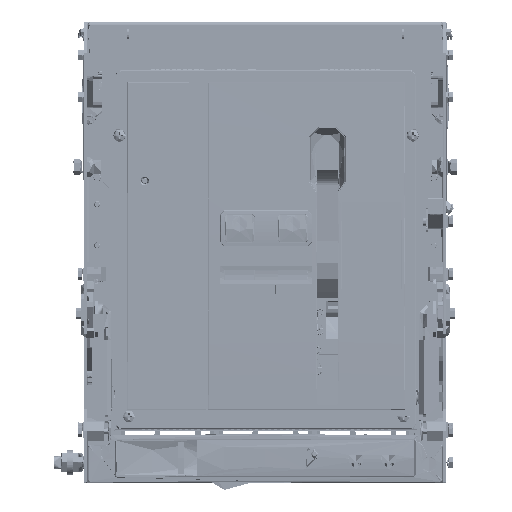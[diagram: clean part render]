
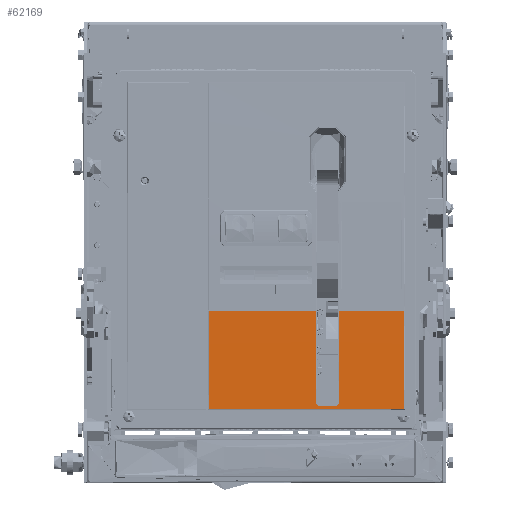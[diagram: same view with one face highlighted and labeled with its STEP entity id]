
A CAD part, top view. The second image highlights one B-rep face of the part: STEP entity #62169.
In plain terms, the highlighted cylindrical face has radius 8454.27 mm (diameter 16908.5 mm), a partial arc.
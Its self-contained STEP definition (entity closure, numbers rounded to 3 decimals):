
#5297 = CARTESIAN_POINT ( 'NONE',  ( 68.5, -40.069, 68.694 ) ) ;
#8869 = CARTESIAN_POINT ( 'NONE',  ( 48.325, -40.094, 70.088 ) ) ;
#9131 = VERTEX_POINT ( 'NONE', #1112158 ) ;
#27912 = CARTESIAN_POINT ( 'NONE',  ( 70.8, 8412.771, 224.25 ) ) ;
#53376 = CARTESIAN_POINT ( 'NONE',  ( 48.2, 8412.771, 224.25 ) ) ;
#58441 = VERTEX_POINT ( 'NONE', #1116523 ) ;
#62169 = ADVANCED_FACE ( 'NONE', ( #336084 ), #249002, .T. ) ;
#64987 = ORIENTED_EDGE ( 'NONE', *, *, #326025, .F. ) ;
#67572 = VERTEX_POINT ( 'NONE', #973868 ) ;
#73641 = DIRECTION ( 'NONE',  ( 1., 0., 0. ) ) ;
#78786 = CARTESIAN_POINT ( 'NONE',  ( 48.831, -40.08, 69.326 ) ) ;
#90240 = CARTESIAN_POINT ( 'NONE',  ( 48.2, -40.111, 70.995 ) ) ;
#95886 = VERTEX_POINT ( 'NONE', #425277 ) ;
#102381 = B_SPLINE_CURVE_WITH_KNOTS ( 'NONE', 3,
 ( #5297, #1082811, #560568, #794500, #914432, #1055651, #119517 ),
 .UNSPECIFIED., .F., .F.,
 ( 4, 1, 1, 1, 4 ),
 ( 0., 0.25, 0.5, 0.75, 1. ),
 .UNSPECIFIED. ) ;
#119517 = CARTESIAN_POINT ( 'NONE',  ( 70.8, -40.111, 70.995 ) ) ;
#122846 = DIRECTION ( 'NONE',  ( 0., -1., -0.019 ) ) ;
#123368 = ORIENTED_EDGE ( 'NONE', *, *, #328350, .F. ) ;
#128538 = CARTESIAN_POINT ( 'NONE',  ( 134., 8412.771, 224.25 ) ) ;
#141957 = CARTESIAN_POINT ( 'NONE',  ( 134., -40.019, 65.994 ) ) ;
#149764 = EDGE_CURVE ( 'NONE', #418052, #927507, #362834, .T. ) ;
#212508 = ORIENTED_EDGE ( 'NONE', *, *, #960136, .T. ) ;
#220719 = EDGE_CURVE ( 'NONE', #9131, #67572, #948638, .T. ) ;
#228395 = CARTESIAN_POINT ( 'NONE',  ( 50.5, -40.069, 68.694 ) ) ;
#239832 = LINE ( 'NONE', #228395, #1069358 ) ;
#249002 = CYLINDRICAL_SURFACE ( 'NONE', #1090785, 8454.271 ) ;
#257961 = EDGE_CURVE ( 'NONE', #9131, #95886, #1040074, .T. ) ;
#284488 = VERTEX_POINT ( 'NONE', #846291 ) ;
#285914 = EDGE_CURVE ( 'NONE', #67572, #839225, #239832, .T. ) ;
#315390 = ORIENTED_EDGE ( 'NONE', *, *, #285914, .F. ) ;
#320168 = CARTESIAN_POINT ( 'NONE',  ( -56., 8412.771, 224.25 ) ) ;
#326025 = EDGE_CURVE ( 'NONE', #839225, #58441, #102381, .T. ) ;
#328350 = EDGE_CURVE ( 'NONE', #284488, #888903, #942597, .T. ) ;
#331579 = DIRECTION ( 'NONE',  ( 0., -1., -0.008 ) ) ;
#336084 = FACE_OUTER_BOUND ( 'NONE', #434212, .T. ) ;
#344048 = EDGE_CURVE ( 'NONE', #284488, #418052, #974113, .T. ) ;
#362834 = LINE ( 'NONE', #803804, #648073 ) ;
#362859 = CARTESIAN_POINT ( 'NONE',  ( 50.18, -40.069, 68.694 ) ) ;
#364734 = DIRECTION ( 'NONE',  ( 1., 0., 0. ) ) ;
#392631 = AXIS2_PLACEMENT_3D ( 'NONE', #320168, #958056, #331579 ) ;
#418052 = VERTEX_POINT ( 'NONE', #859314 ) ;
#425277 = CARTESIAN_POINT ( 'NONE',  ( 48.2, -41.261, 160.698 ) ) ;
#427605 = LINE ( 'NONE', #711637, #981826 ) ;
#434212 = EDGE_LOOP ( 'NONE', ( #64987, #315390, #646024, #593459, #688222, #951844, #123368, #887375, #629296, #212508 ) ) ;
#476385 = CARTESIAN_POINT ( 'NONE',  ( 70.8, -41.261, 160.698 ) ) ;
#476830 = DIRECTION ( 'NONE',  ( -1., 0., 0. ) ) ;
#483282 = CIRCLE ( 'NONE', #705224, 8454.271 ) ;
#483908 = DIRECTION ( 'NONE',  ( 1., 0., 0. ) ) ;
#491788 = EDGE_CURVE ( 'NONE', #600976, #888903, #1077617, .T. ) ;
#501702 = DIRECTION ( 'NONE',  ( -1., 0., 0. ) ) ;
#530955 = CARTESIAN_POINT ( 'NONE',  ( -56., -40.019, 65.994 ) ) ;
#544080 = CARTESIAN_POINT ( 'NONE',  ( 68.5, -40.069, 68.694 ) ) ;
#560568 = CARTESIAN_POINT ( 'NONE',  ( 69.406, -40.071, 68.819 ) ) ;
#593459 = ORIENTED_EDGE ( 'NONE', *, *, #257961, .T. ) ;
#600976 = VERTEX_POINT ( 'NONE', #666126 ) ;
#613526 = AXIS2_PLACEMENT_3D ( 'NONE', #53376, #778444, #691413 ) ;
#629296 = ORIENTED_EDGE ( 'NONE', *, *, #149764, .T. ) ;
#646024 = ORIENTED_EDGE ( 'NONE', *, *, #220719, .F. ) ;
#648073 = VECTOR ( 'NONE', #1140472, 1000. ) ;
#666126 = CARTESIAN_POINT ( 'NONE',  ( -56., -41.261, 160.698 ) ) ;
#688222 = ORIENTED_EDGE ( 'NONE', *, *, #807025, .F. ) ;
#690057 = DIRECTION ( 'NONE',  ( -1., 0., 0. ) ) ;
#691413 = DIRECTION ( 'NONE',  ( 0., -1., -0.018 ) ) ;
#695904 = AXIS2_PLACEMENT_3D ( 'NONE', #128538, #476830, #122846 ) ;
#705224 = AXIS2_PLACEMENT_3D ( 'NONE', #27912, #364734, #730099 ) ;
#707161 = CARTESIAN_POINT ( 'NONE',  ( -69., 8412.771, 224.25 ) ) ;
#711637 = CARTESIAN_POINT ( 'NONE',  ( -56., -41.261, 160.698 ) ) ;
#730099 = DIRECTION ( 'NONE',  ( 0., -1., -0.008 ) ) ;
#778444 = DIRECTION ( 'NONE',  ( -1., 0., 0. ) ) ;
#794500 = CARTESIAN_POINT ( 'NONE',  ( 70.169, -40.08, 69.326 ) ) ;
#803804 = CARTESIAN_POINT ( 'NONE',  ( 134., -41.261, 160.698 ) ) ;
#807025 = EDGE_CURVE ( 'NONE', #600976, #95886, #427605, .T. ) ;
#839225 = VERTEX_POINT ( 'NONE', #544080 ) ;
#846291 = CARTESIAN_POINT ( 'NONE',  ( 134., -40.019, 65.994 ) ) ;
#859314 = CARTESIAN_POINT ( 'NONE',  ( 134., -41.261, 160.698 ) ) ;
#887375 = ORIENTED_EDGE ( 'NONE', *, *, #344048, .T. ) ;
#888903 = VERTEX_POINT ( 'NONE', #530955 ) ;
#914432 = CARTESIAN_POINT ( 'NONE',  ( 70.675, -40.094, 70.088 ) ) ;
#927507 = VERTEX_POINT ( 'NONE', #476385 ) ;
#942597 = LINE ( 'NONE', #141957, #1010596 ) ;
#948638 = B_SPLINE_CURVE_WITH_KNOTS ( 'NONE', 3,
 ( #90240, #1140497, #8869, #78786, #966468, #362859, #1053527 ),
 .UNSPECIFIED., .F., .F.,
 ( 4, 1, 1, 1, 4 ),
 ( 0., 0.25, 0.5, 0.75, 1. ),
 .UNSPECIFIED. ) ;
#951844 = ORIENTED_EDGE ( 'NONE', *, *, #491788, .T. ) ;
#956867 = DIRECTION ( 'NONE',  ( 0., 0., -1. ) ) ;
#958056 = DIRECTION ( 'NONE',  ( 1., 0., 0. ) ) ;
#960136 = EDGE_CURVE ( 'NONE', #927507, #58441, #483282, .T. ) ;
#966468 = CARTESIAN_POINT ( 'NONE',  ( 49.594, -40.071, 68.819 ) ) ;
#973868 = CARTESIAN_POINT ( 'NONE',  ( 50.5, -40.069, 68.694 ) ) ;
#974113 = CIRCLE ( 'NONE', #695904, 8454.271 ) ;
#981826 = VECTOR ( 'NONE', #73641, 1000. ) ;
#1010596 = VECTOR ( 'NONE', #501702, 1000. ) ;
#1040074 = CIRCLE ( 'NONE', #613526, 8454.271 ) ;
#1053527 = CARTESIAN_POINT ( 'NONE',  ( 50.5, -40.069, 68.694 ) ) ;
#1055651 = CARTESIAN_POINT ( 'NONE',  ( 70.8, -40.105, 70.674 ) ) ;
#1069358 = VECTOR ( 'NONE', #483908, 1000. ) ;
#1077617 = CIRCLE ( 'NONE', #392631, 8454.271 ) ;
#1082811 = CARTESIAN_POINT ( 'NONE',  ( 68.82, -40.069, 68.694 ) ) ;
#1090785 = AXIS2_PLACEMENT_3D ( 'NONE', #707161, #690057, #956867 ) ;
#1112158 = CARTESIAN_POINT ( 'NONE',  ( 48.2, -40.111, 70.995 ) ) ;
#1116523 = CARTESIAN_POINT ( 'NONE',  ( 70.8, -40.111, 70.995 ) ) ;
#1140472 = DIRECTION ( 'NONE',  ( -1., 0., 0. ) ) ;
#1140497 = CARTESIAN_POINT ( 'NONE',  ( 48.2, -40.105, 70.674 ) ) ;
